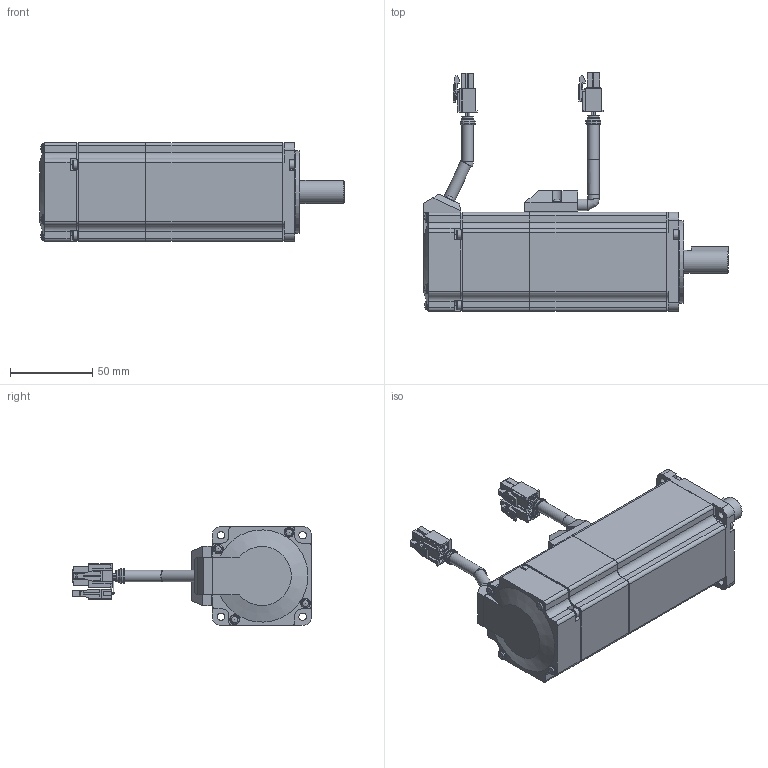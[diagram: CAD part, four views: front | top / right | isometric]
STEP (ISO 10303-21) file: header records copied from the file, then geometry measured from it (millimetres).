
FILE_DESCRIPTION( ( 'STEP AP0' ), '1' );
FILE_NAME( '//expscmdclustefs.cadenas.external/client_exchange/iodir/jobs/output/wkb64910330_no0/STEP/MHMD042G1VA_2_03.stp', ' ', ( ' ' ), ( ' ' ), 'PSStep 15.0.47', 'PARTsolutions', ' ' );
FILE_SCHEMA( ( 'CONFIG_CONTROL_DESIGN' ) );
Length unit declared in the file: millimetre
Products named in the file (9): MHMD042G1VA; HI_0.4 kWith key and end of tapYes body; HI_Motoplug--04B; HI_Brake--04P; HI_Motor Connector; HI_Brake Connector; HI_Encoder--04P; HI_Cabel brake--04-P-6; HI_2500 p/r Connector
Assembly tree (8 placements, depth 2):
  MHMD042G1VA
    HI_0.4 kWith key and end of tapYes body
    HI_Motoplug--04B
    HI_Brake--04P
    HI_Motor Connector
    HI_Brake Connector
    HI_Encoder--04P
    HI_Cabel brake--04-P-6
    HI_2500 p/r Connector
Bounding box: 185 x 144.8 x 60 mm (x, y, z)
Volume: 530239.7 mm3; surface area: 61747.5 mm2
Topology: 8 solids, 8 shells, 906 faces, 2315 edges, 1513 vertices
Faces by surface type: plane 656, cylinder 198, cone 27, torus 17, sphere 4, bspline 4
Full cylindrical faces by diameter (mm): 1 x14, 1.82 x4, 2.6 x12, 4.134 x1, 4.5 x8, 5.5 x8, 6 x12, 7 x7, 9 x2, 14 x1, 15.5 x1, 26 x1, 50 x1
Entity records: 26781 total; most frequent: CARTESIAN_POINT 4798, DIRECTION 4427, ORIENTED_EDGE 4328, EDGE_CURVE 2164, LINE 1689, VECTOR 1689, VERTEX_POINT 1488, AXIS2_PLACEMENT_3D 1369
